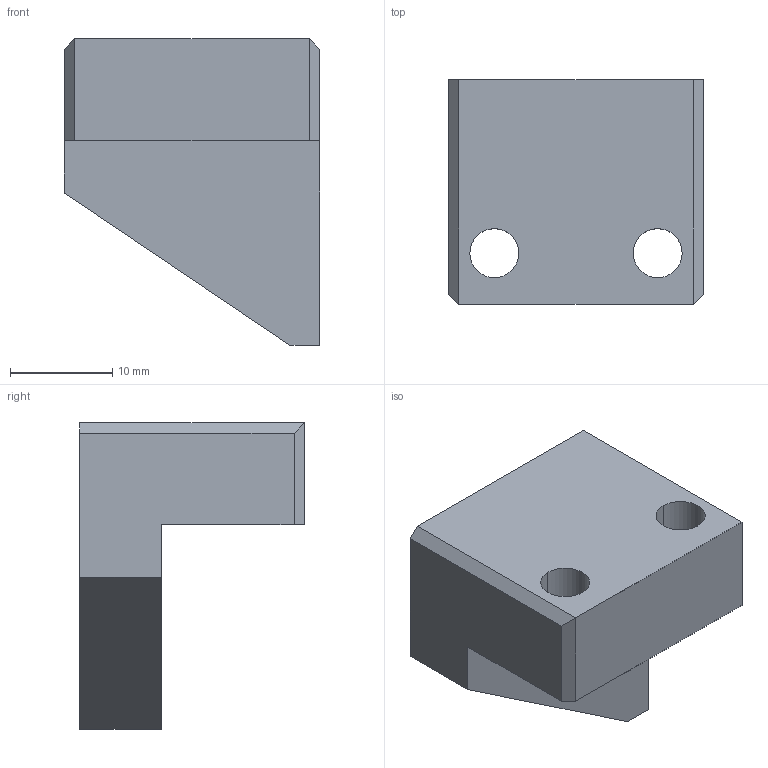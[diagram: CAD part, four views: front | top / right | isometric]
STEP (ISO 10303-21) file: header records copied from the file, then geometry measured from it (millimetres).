
FILE_DESCRIPTION (( 'STEP AP214' ), '1' );
FILE_NAME ('GZ29.11_V1顶块.STEP', '2021-05-07T07:49:44', ( '微软中国' ), ( 'Microsoft' ), 'SwSTEP 2.0', 'SolidWorks 2017', '' );
FILE_SCHEMA (( 'AUTOMOTIVE_DESIGN' ));
Length unit declared in the file: millimetre
Products named in the file (1): GZ29.11_V1階輸
Bounding box: 25 x 22 x 30 mm (x, y, z)
Volume: 7494.2 mm3; surface area: 3229.5 mm2
Topology: 1 solids, 1 shells, 23 faces, 55 edges, 36 vertices
Faces by surface type: plane 15, cylinder 8
Entity records: 711 total; most frequent: DIRECTION 119, CARTESIAN_POINT 115, ORIENTED_EDGE 110, EDGE_CURVE 55, AXIS2_PLACEMENT_3D 40, LINE 39, VECTOR 39, VERTEX_POINT 36
